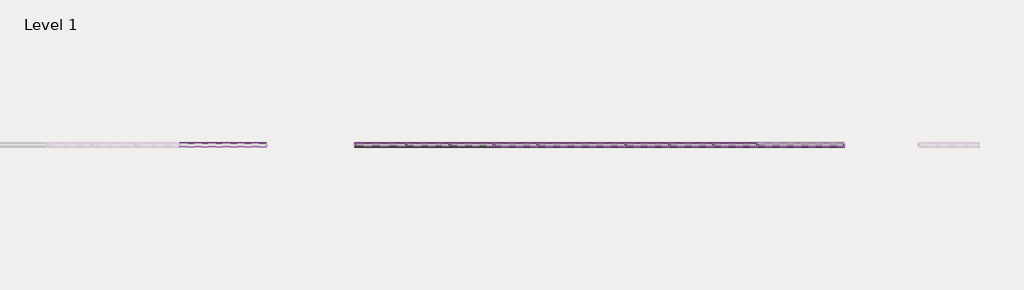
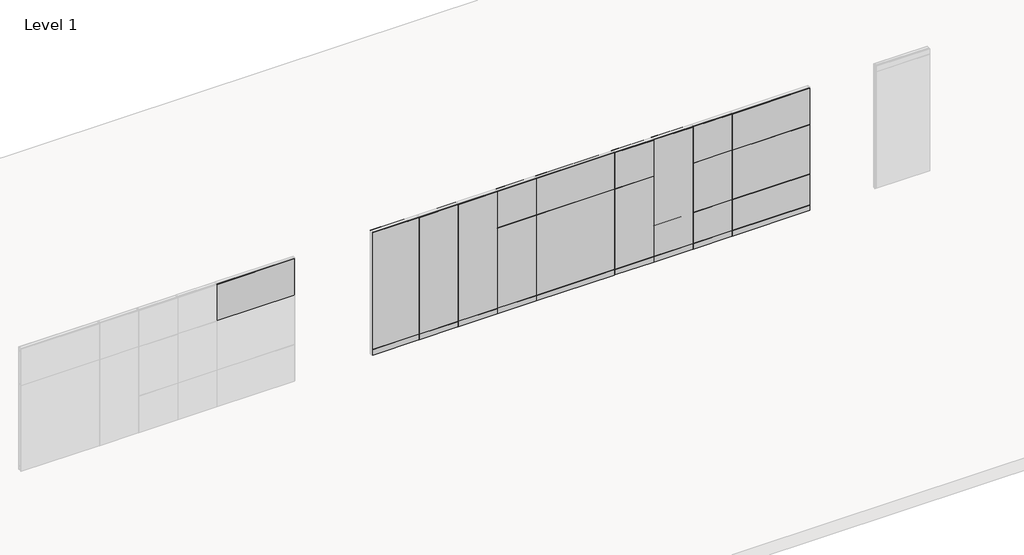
# One storey, part 7 of 22: 107 proxies.
"""IFC4 building model written with IfcOpenShell, lengths in millimetres."""

from ifc_helpers import new_model, si_unit, origin, place, context, project, spatial, transform, mapped, element, save
from components import fascia_teknion_ceiling_and_base_fpb1_658eb9e8, fascia_teknion_ceiling_and_base_fpb1_d3fc623d, fascia_teknion_ceiling_and_base_fpb1_6ffdd3c4, fascia_teknion_ceiling_and_base_fpb1_e3dcadc1, fascia_teknion_ceiling_and_base_fpb1_b7746e3f, fascia_teknion_ceiling_and_base_fpb1_fca0640a, fascia_teknion_ceiling_and_base_fpb1_086ac043, fascia_teknion_ceiling_and_base_fpb1_29265a3b, frame_teknion_horizontal_rail_46ee653b, frame_teknion_horizontal_rail_5dd37d62, frame_teknion_horizontal_rail_fbfe6c54, frame_teknion_horizontal_rail_cc39d483, full_f94a2816, full_178b5045, level_i_a4eb09b2, level_i_215115a4, level_ii_5838736d, level_ii_c8f04d20, level_ii_2f074b98, level_ii_82d1d981, level_iii_7086e34a, level_iii_17d9b208, monolithic_level_i_604a00d2, monolithic_level_i_117a5531, segmented_level_i_b619f2b0, segmented_level_i_812e5143, segmented_level_ii_95ed46a7, segmented_monolithic_level_i_a660c2bd, segmented_monolithic_level_i_ac18bccb, segmented_monolithic_level_ii_ef75357c, segmented_monolithic_level_ii_36634c45, smart_fascia_6a8e0afe, working_wall_monolithic_level_i_588f7e64, working_wall_monolithic_level_i_2cfe2bff, working_wall_monolithic_level_iii_599cdcd6

model = new_model("IFC4")

# Units and contexts
model_context = context("Model", 3, world=origin())
ifc_project = project(units=[si_unit("LENGTHUNIT", "METRE", prefix="MILLI")], contexts=[model_context])

# Site, building, storey
site = spatial("IfcSite", under=ifc_project)
building = spatial("IfcBuilding", under=site)
storey = spatial("IfcBuildingStorey", under=building, Name="Level 1", Elevation=0.0)

# Proxies
placement = place(None, origin())
fascia_teknion_ceiling_and_base_fpb1_shape = fascia_teknion_ceiling_and_base_fpb1_658eb9e8(model_context)
element("IfcBuildingElementProxy", 1, Name="Fascia-Teknion-Ceiling_and_Base : FPB1", ObjectType="Fascia-Teknion-Ceiling_and_Base : FPB1", at=placement, inside=storey, context=model_context, shape_type="MappedRepresentation", body=[
    mapped(fascia_teknion_ceiling_and_base_fpb1_shape, transform((-74729.1687444, 1781.3642105, 15.875), x_axis=(1.0, 0.0, 0.0), y_axis=(0.0, 1.0, 0.0), z_axis=(0.0, 0.0, 1.0))),
])
element("IfcBuildingElementProxy", 2, Name="Fascia-Teknion-Ceiling_and_Base : FPB1", ObjectType="Fascia-Teknion-Ceiling_and_Base : FPB1", at=placement, inside=storey, context=model_context, shape_type="MappedRepresentation", body=[
    mapped(fascia_teknion_ceiling_and_base_fpb1_shape, transform((-73814.7687444, 1781.3642105, 15.875), x_axis=(1.0, 0.0, 0.0), y_axis=(0.0, 1.0, 0.0), z_axis=(0.0, 0.0, 1.0))),
])
element("IfcBuildingElementProxy", 3, Name="Fascia-Teknion-Ceiling_and_Base : FPB1", ObjectType="Fascia-Teknion-Ceiling_and_Base : FPB1", at=placement, inside=storey, context=model_context, shape_type="MappedRepresentation", body=[
    mapped(fascia_teknion_ceiling_and_base_fpb1_shape, transform((-72900.3687444, 1781.3642105, 15.875), x_axis=(1.0, 0.0, 0.0), y_axis=(0.0, 1.0, 0.0), z_axis=(0.0, 0.0, 1.0))),
])
element("IfcBuildingElementProxy", 4, Name="Fascia-Teknion-Ceiling_and_Base : FPB1", ObjectType="Fascia-Teknion-Ceiling_and_Base : FPB1", at=placement, inside=storey, context=model_context, shape_type="MappedRepresentation", body=[
    mapped(fascia_teknion_ceiling_and_base_fpb1_shape, transform((-70157.1687444, 1781.3642105, 15.875), x_axis=(1.0, 0.0, 0.0), y_axis=(0.0, 1.0, 0.0), z_axis=(0.0, 0.0, 1.0))),
])
element("IfcBuildingElementProxy", 5, Name="Fascia-Teknion-Ceiling_and_Base : FPB1", ObjectType="Fascia-Teknion-Ceiling_and_Base : FPB1", at=placement, inside=storey, context=model_context, shape_type="MappedRepresentation", body=[
    mapped(fascia_teknion_ceiling_and_base_fpb1_shape, transform((-69242.7687444, 1781.3642105, 15.875), x_axis=(1.0, 0.0, 0.0), y_axis=(0.0, 1.0, 0.0), z_axis=(0.0, 0.0, 1.0))),
])
element("IfcBuildingElementProxy", 6, Name="Fascia-Teknion-Ceiling_and_Base : FPB1", ObjectType="Fascia-Teknion-Ceiling_and_Base : FPB1", at=placement, inside=storey, context=model_context, shape_type="MappedRepresentation", body=[
    mapped(fascia_teknion_ceiling_and_base_fpb1_shape, transform((-68328.3687444, 1781.3642105, 15.875), x_axis=(1.0, 0.0, 0.0), y_axis=(0.0, 1.0, 0.0), z_axis=(0.0, 0.0, 1.0))),
])
fascia_teknion_ceiling_and_base_fpb1_2_shape = fascia_teknion_ceiling_and_base_fpb1_d3fc623d(model_context)
element("IfcBuildingElementProxy", 7, Name="Fascia-Teknion-Ceiling_and_Base : FPB1", ObjectType="Fascia-Teknion-Ceiling_and_Base : FPB1", at=placement, inside=storey, context=model_context, shape_type="MappedRepresentation", body=[
    mapped(fascia_teknion_ceiling_and_base_fpb1_2_shape, transform((-75725.4738225, 1781.3642105, 15.875), x_axis=(1.0, 0.0, 0.0), y_axis=(0.0, 1.0, 0.0), z_axis=(0.0, 0.0, 1.0))),
])
fascia_teknion_ceiling_and_base_fpb1_3_shape = fascia_teknion_ceiling_and_base_fpb1_6ffdd3c4(model_context)
element("IfcBuildingElementProxy", 8, Name="Fascia-Teknion-Ceiling_and_Base : FPB1", ObjectType="Fascia-Teknion-Ceiling_and_Base : FPB1", at=placement, inside=storey, context=model_context, shape_type="MappedRepresentation", body=[
    mapped(fascia_teknion_ceiling_and_base_fpb1_3_shape, transform((-71528.7687444, 1781.3642105, 15.875), x_axis=(1.0, 0.0, 0.0), y_axis=(0.0, 1.0, 0.0), z_axis=(0.0, 0.0, 1.0))),
])
fascia_teknion_ceiling_and_base_fpb1_4_shape = fascia_teknion_ceiling_and_base_fpb1_e3dcadc1(model_context)
element("IfcBuildingElementProxy", 9, Name="Fascia-Teknion-Ceiling_and_Base : FPB1", ObjectType="Fascia-Teknion-Ceiling_and_Base : FPB1", at=placement, inside=storey, context=model_context, shape_type="MappedRepresentation", body=[
    mapped(fascia_teknion_ceiling_and_base_fpb1_4_shape, transform((-66963.7636663, 1781.3642105, 15.875), x_axis=(1.0, 0.0, 0.0), y_axis=(0.0, 1.0, 0.0), z_axis=(0.0, 0.0, 1.0))),
])
fascia_teknion_ceiling_and_base_fpb1_5_shape = fascia_teknion_ceiling_and_base_fpb1_b7746e3f(model_context)
element("IfcBuildingElementProxy", 10, Name="Fascia-Teknion-Ceiling_and_Base : FPB1", ObjectType="Fascia-Teknion-Ceiling_and_Base : FPB1", at=placement, inside=storey, context=model_context, shape_type="MappedRepresentation", body=[
    mapped(fascia_teknion_ceiling_and_base_fpb1_5_shape, transform((-66963.7636663, 1843.3402105, 15.875), x_axis=(1.0, 0.0, 0.0), y_axis=(0.0, 1.0, 0.0), z_axis=(0.0, 0.0, 1.0))),
])
fascia_teknion_ceiling_and_base_fpb1_6_shape = fascia_teknion_ceiling_and_base_fpb1_fca0640a(model_context)
element("IfcBuildingElementProxy", 11, Name="Fascia-Teknion-Ceiling_and_Base : FPB1", ObjectType="Fascia-Teknion-Ceiling_and_Base : FPB1", at=placement, inside=storey, context=model_context, shape_type="MappedRepresentation", body=[
    mapped(fascia_teknion_ceiling_and_base_fpb1_6_shape, transform((-73814.7687444, 1843.3402105, 15.875), x_axis=(1.0, 0.0, 0.0), y_axis=(0.0, 1.0, 0.0), z_axis=(0.0, 0.0, 1.0))),
])
element("IfcBuildingElementProxy", 12, Name="Fascia-Teknion-Ceiling_and_Base : FPB1", ObjectType="Fascia-Teknion-Ceiling_and_Base : FPB1", at=placement, inside=storey, context=model_context, shape_type="MappedRepresentation", body=[
    mapped(fascia_teknion_ceiling_and_base_fpb1_6_shape, transform((-72900.3687444, 1843.3402105, 15.875), x_axis=(1.0, 0.0, 0.0), y_axis=(0.0, 1.0, 0.0), z_axis=(0.0, 0.0, 1.0))),
])
element("IfcBuildingElementProxy", 13, Name="Fascia-Teknion-Ceiling_and_Base : FPB1", ObjectType="Fascia-Teknion-Ceiling_and_Base : FPB1", at=placement, inside=storey, context=model_context, shape_type="MappedRepresentation", body=[
    mapped(fascia_teknion_ceiling_and_base_fpb1_6_shape, transform((-70157.1687444, 1843.3402105, 15.875), x_axis=(1.0, 0.0, 0.0), y_axis=(0.0, 1.0, 0.0), z_axis=(0.0, 0.0, 1.0))),
])
element("IfcBuildingElementProxy", 14, Name="Fascia-Teknion-Ceiling_and_Base : FPB1", ObjectType="Fascia-Teknion-Ceiling_and_Base : FPB1", at=placement, inside=storey, context=model_context, shape_type="MappedRepresentation", body=[
    mapped(fascia_teknion_ceiling_and_base_fpb1_6_shape, transform((-69242.7687444, 1843.3402105, 15.875), x_axis=(1.0, 0.0, 0.0), y_axis=(0.0, 1.0, 0.0), z_axis=(0.0, 0.0, 1.0))),
])
element("IfcBuildingElementProxy", 15, Name="Fascia-Teknion-Ceiling_and_Base : FPB1", ObjectType="Fascia-Teknion-Ceiling_and_Base : FPB1", at=placement, inside=storey, context=model_context, shape_type="MappedRepresentation", body=[
    mapped(fascia_teknion_ceiling_and_base_fpb1_6_shape, transform((-74729.1687444, 1843.3402105, 15.875), x_axis=(1.0, 0.0, 0.0), y_axis=(0.0, 1.0, 0.0), z_axis=(0.0, 0.0, 1.0))),
])
element("IfcBuildingElementProxy", 16, Name="Fascia-Teknion-Ceiling_and_Base : FPB1", ObjectType="Fascia-Teknion-Ceiling_and_Base : FPB1", at=placement, inside=storey, context=model_context, shape_type="MappedRepresentation", body=[
    mapped(fascia_teknion_ceiling_and_base_fpb1_6_shape, transform((-68328.3687444, 1843.3402105, 15.875), x_axis=(1.0, 0.0, 0.0), y_axis=(0.0, 1.0, 0.0), z_axis=(0.0, 0.0, 1.0))),
])
fascia_teknion_ceiling_and_base_fpb1_7_shape = fascia_teknion_ceiling_and_base_fpb1_086ac043(model_context)
element("IfcBuildingElementProxy", 17, Name="Fascia-Teknion-Ceiling_and_Base : FPB1", ObjectType="Fascia-Teknion-Ceiling_and_Base : FPB1", at=placement, inside=storey, context=model_context, shape_type="MappedRepresentation", body=[
    mapped(fascia_teknion_ceiling_and_base_fpb1_7_shape, transform((-71528.7687444, 1843.3402105, 15.875), x_axis=(1.0, 0.0, 0.0), y_axis=(0.0, 1.0, 0.0), z_axis=(0.0, 0.0, 1.0))),
])
fascia_teknion_ceiling_and_base_fpb1_8_shape = fascia_teknion_ceiling_and_base_fpb1_29265a3b(model_context)
element("IfcBuildingElementProxy", 18, Name="Fascia-Teknion-Ceiling_and_Base : FPB1", ObjectType="Fascia-Teknion-Ceiling_and_Base : FPB1", at=placement, inside=storey, context=model_context, shape_type="MappedRepresentation", body=[
    mapped(fascia_teknion_ceiling_and_base_fpb1_8_shape, transform((-75725.4738225, 1843.3402105, 15.875), x_axis=(1.0, 0.0, 0.0), y_axis=(0.0, 1.0, 0.0), z_axis=(0.0, 0.0, 1.0))),
])
element("IfcBuildingElementProxy", 19, Name="Fascia-Teknion-Ceiling_and_Base : FPC", ObjectType="Fascia-Teknion-Ceiling_and_Base : FPC", at=placement, inside=storey, context=model_context, shape_type="MappedRepresentation", body=[
    mapped(fascia_teknion_ceiling_and_base_fpb1_5_shape, transform((-66963.7636663, 1843.3402105, 2950.845), x_axis=(1.0, 0.0, 0.0), y_axis=(0.0, 1.0, 0.0), z_axis=(0.0, 0.0, 1.0))),
])
element("IfcBuildingElementProxy", 20, Name="Fascia-Teknion-Ceiling_and_Base : FPC", ObjectType="Fascia-Teknion-Ceiling_and_Base : FPC", at=placement, inside=storey, context=model_context, shape_type="MappedRepresentation", body=[
    mapped(fascia_teknion_ceiling_and_base_fpb1_6_shape, transform((-73814.7687444, 1843.3402105, 2950.845), x_axis=(1.0, 0.0, 0.0), y_axis=(0.0, 1.0, 0.0), z_axis=(0.0, 0.0, 1.0))),
])
element("IfcBuildingElementProxy", 21, Name="Fascia-Teknion-Ceiling_and_Base : FPC", ObjectType="Fascia-Teknion-Ceiling_and_Base : FPC", at=placement, inside=storey, context=model_context, shape_type="MappedRepresentation", body=[
    mapped(fascia_teknion_ceiling_and_base_fpb1_6_shape, transform((-72900.3687444, 1843.3402105, 2950.845), x_axis=(1.0, 0.0, 0.0), y_axis=(0.0, 1.0, 0.0), z_axis=(0.0, 0.0, 1.0))),
])
element("IfcBuildingElementProxy", 22, Name="Fascia-Teknion-Ceiling_and_Base : FPC", ObjectType="Fascia-Teknion-Ceiling_and_Base : FPC", at=placement, inside=storey, context=model_context, shape_type="MappedRepresentation", body=[
    mapped(fascia_teknion_ceiling_and_base_fpb1_6_shape, transform((-70157.1687444, 1843.3402105, 2950.845), x_axis=(1.0, 0.0, 0.0), y_axis=(0.0, 1.0, 0.0), z_axis=(0.0, 0.0, 1.0))),
])
element("IfcBuildingElementProxy", 23, Name="Fascia-Teknion-Ceiling_and_Base : FPC", ObjectType="Fascia-Teknion-Ceiling_and_Base : FPC", at=placement, inside=storey, context=model_context, shape_type="MappedRepresentation", body=[
    mapped(fascia_teknion_ceiling_and_base_fpb1_6_shape, transform((-69242.7687444, 1843.3402105, 2950.845), x_axis=(1.0, 0.0, 0.0), y_axis=(0.0, 1.0, 0.0), z_axis=(0.0, 0.0, 1.0))),
])
element("IfcBuildingElementProxy", 24, Name="Fascia-Teknion-Ceiling_and_Base : FPC", ObjectType="Fascia-Teknion-Ceiling_and_Base : FPC", at=placement, inside=storey, context=model_context, shape_type="MappedRepresentation", body=[
    mapped(fascia_teknion_ceiling_and_base_fpb1_6_shape, transform((-74729.1687444, 1843.3402105, 2950.845), x_axis=(1.0, 0.0, 0.0), y_axis=(0.0, 1.0, 0.0), z_axis=(0.0, 0.0, 1.0))),
])
element("IfcBuildingElementProxy", 25, Name="Fascia-Teknion-Ceiling_and_Base : FPC", ObjectType="Fascia-Teknion-Ceiling_and_Base : FPC", at=placement, inside=storey, context=model_context, shape_type="MappedRepresentation", body=[
    mapped(fascia_teknion_ceiling_and_base_fpb1_6_shape, transform((-68328.3687444, 1843.3402105, 2950.845), x_axis=(1.0, 0.0, 0.0), y_axis=(0.0, 1.0, 0.0), z_axis=(0.0, 0.0, 1.0))),
])
element("IfcBuildingElementProxy", 26, Name="Fascia-Teknion-Ceiling_and_Base : FPC", ObjectType="Fascia-Teknion-Ceiling_and_Base : FPC", at=placement, inside=storey, context=model_context, shape_type="MappedRepresentation", body=[
    mapped(fascia_teknion_ceiling_and_base_fpb1_7_shape, transform((-71528.7687444, 1843.3402105, 2950.845), x_axis=(1.0, 0.0, 0.0), y_axis=(0.0, 1.0, 0.0), z_axis=(0.0, 0.0, 1.0))),
])
element("IfcBuildingElementProxy", 27, Name="Fascia-Teknion-Ceiling_and_Base : FPC", ObjectType="Fascia-Teknion-Ceiling_and_Base : FPC", at=placement, inside=storey, context=model_context, shape_type="MappedRepresentation", body=[
    mapped(fascia_teknion_ceiling_and_base_fpb1_8_shape, transform((-75725.4738225, 1843.3402105, 2950.845), x_axis=(1.0, 0.0, 0.0), y_axis=(0.0, 1.0, 0.0), z_axis=(0.0, 0.0, 1.0))),
])
frame_teknion_horizontal_rail_shape = frame_teknion_horizontal_rail_46ee653b(model_context)
element("IfcBuildingElementProxy", 28, Name="Frame-Teknion-Horizontal_Rail : FPKK", ObjectType="Frame-Teknion-Horizontal_Rail : FPKK", at=placement, inside=storey, context=model_context, shape_type="MappedRepresentation", body=[
    mapped(frame_teknion_horizontal_rail_shape, transform((-74729.1687444, 1812.3522105, 2949.1305), x_axis=(1.0, 0.0, 0.0), y_axis=(0.0, 1.0, 0.0), z_axis=(0.0, 0.0, 1.0))),
])
element("IfcBuildingElementProxy", 29, Name="Frame-Teknion-Horizontal_Rail : FPKK", ObjectType="Frame-Teknion-Horizontal_Rail : FPKK", at=placement, inside=storey, context=model_context, shape_type="MappedRepresentation", body=[
    mapped(frame_teknion_horizontal_rail_shape, transform((-74729.1687444, 1812.3522105, 151.257), x_axis=(1.0, 0.0, 0.0), y_axis=(0.0, 1.0, 0.0), z_axis=(0.0, 0.0, 1.0))),
])
element("IfcBuildingElementProxy", 30, Name="Frame-Teknion-Horizontal_Rail : FPKK", ObjectType="Frame-Teknion-Horizontal_Rail : FPKK", at=placement, inside=storey, context=model_context, shape_type="MappedRepresentation", body=[
    mapped(frame_teknion_horizontal_rail_shape, transform((-73814.7687444, 1812.3522105, 2949.1305), x_axis=(1.0, 0.0, 0.0), y_axis=(0.0, 1.0, 0.0), z_axis=(0.0, 0.0, 1.0))),
])
element("IfcBuildingElementProxy", 31, Name="Frame-Teknion-Horizontal_Rail : FPKK", ObjectType="Frame-Teknion-Horizontal_Rail : FPKK", at=placement, inside=storey, context=model_context, shape_type="MappedRepresentation", body=[
    mapped(frame_teknion_horizontal_rail_shape, transform((-73814.7687444, 1812.3522105, 151.257), x_axis=(1.0, 0.0, 0.0), y_axis=(0.0, 1.0, 0.0), z_axis=(0.0, 0.0, 1.0))),
])
element("IfcBuildingElementProxy", 32, Name="Frame-Teknion-Horizontal_Rail : FPKK", ObjectType="Frame-Teknion-Horizontal_Rail : FPKK", at=placement, inside=storey, context=model_context, shape_type="MappedRepresentation", body=[
    mapped(frame_teknion_horizontal_rail_shape, transform((-72900.3687444, 1812.3522105, 2949.1305), x_axis=(1.0, 0.0, 0.0), y_axis=(0.0, 1.0, 0.0), z_axis=(0.0, 0.0, 1.0))),
])
element("IfcBuildingElementProxy", 33, Name="Frame-Teknion-Horizontal_Rail : FPKK", ObjectType="Frame-Teknion-Horizontal_Rail : FPKK", at=placement, inside=storey, context=model_context, shape_type="MappedRepresentation", body=[
    mapped(frame_teknion_horizontal_rail_shape, transform((-72900.3687444, 1812.3522105, 151.257), x_axis=(1.0, 0.0, 0.0), y_axis=(0.0, 1.0, 0.0), z_axis=(0.0, 0.0, 1.0))),
])
element("IfcBuildingElementProxy", 34, Name="Frame-Teknion-Horizontal_Rail : FPKK", ObjectType="Frame-Teknion-Horizontal_Rail : FPKK", at=placement, inside=storey, context=model_context, shape_type="MappedRepresentation", body=[
    mapped(frame_teknion_horizontal_rail_shape, transform((-70157.1687444, 1812.3522105, 2949.1305), x_axis=(1.0, 0.0, 0.0), y_axis=(0.0, 1.0, 0.0), z_axis=(0.0, 0.0, 1.0))),
])
element("IfcBuildingElementProxy", 35, Name="Frame-Teknion-Horizontal_Rail : FPKK", ObjectType="Frame-Teknion-Horizontal_Rail : FPKK", at=placement, inside=storey, context=model_context, shape_type="MappedRepresentation", body=[
    mapped(frame_teknion_horizontal_rail_shape, transform((-70157.1687444, 1812.3522105, 151.257), x_axis=(1.0, 0.0, 0.0), y_axis=(0.0, 1.0, 0.0), z_axis=(0.0, 0.0, 1.0))),
])
element("IfcBuildingElementProxy", 36, Name="Frame-Teknion-Horizontal_Rail : FPKK", ObjectType="Frame-Teknion-Horizontal_Rail : FPKK", at=placement, inside=storey, context=model_context, shape_type="MappedRepresentation", body=[
    mapped(frame_teknion_horizontal_rail_shape, transform((-69242.7687444, 1812.3522105, 2949.1305), x_axis=(1.0, 0.0, 0.0), y_axis=(0.0, 1.0, 0.0), z_axis=(0.0, 0.0, 1.0))),
])
element("IfcBuildingElementProxy", 37, Name="Frame-Teknion-Horizontal_Rail : FPKK", ObjectType="Frame-Teknion-Horizontal_Rail : FPKK", at=placement, inside=storey, context=model_context, shape_type="MappedRepresentation", body=[
    mapped(frame_teknion_horizontal_rail_shape, transform((-69242.7687444, 1812.3522105, 151.257), x_axis=(1.0, 0.0, 0.0), y_axis=(0.0, 1.0, 0.0), z_axis=(0.0, 0.0, 1.0))),
])
element("IfcBuildingElementProxy", 38, Name="Frame-Teknion-Horizontal_Rail : FPKK", ObjectType="Frame-Teknion-Horizontal_Rail : FPKK", at=placement, inside=storey, context=model_context, shape_type="MappedRepresentation", body=[
    mapped(frame_teknion_horizontal_rail_shape, transform((-68328.3687444, 1812.3522105, 2949.1305), x_axis=(1.0, 0.0, 0.0), y_axis=(0.0, 1.0, 0.0), z_axis=(0.0, 0.0, 1.0))),
])
element("IfcBuildingElementProxy", 39, Name="Frame-Teknion-Horizontal_Rail : FPKK", ObjectType="Frame-Teknion-Horizontal_Rail : FPKK", at=placement, inside=storey, context=model_context, shape_type="MappedRepresentation", body=[
    mapped(frame_teknion_horizontal_rail_shape, transform((-68328.3687444, 1812.3522105, 151.257), x_axis=(1.0, 0.0, 0.0), y_axis=(0.0, 1.0, 0.0), z_axis=(0.0, 0.0, 1.0))),
])
element("IfcBuildingElementProxy", 40, Name="Frame-Teknion-Horizontal_Rail : FPKK", ObjectType="Frame-Teknion-Horizontal_Rail : FPKK", at=placement, inside=storey, context=model_context, shape_type="MappedRepresentation", body=[
    mapped(frame_teknion_horizontal_rail_shape, transform((-74729.1687444, 1812.3522105, 2136.775), x_axis=(1.0, 0.0, 0.0), y_axis=(0.0, 1.0, 0.0), z_axis=(0.0, 0.0, 1.0))),
])
element("IfcBuildingElementProxy", 41, Name="Frame-Teknion-Horizontal_Rail : FPKK", ObjectType="Frame-Teknion-Horizontal_Rail : FPKK", at=placement, inside=storey, context=model_context, shape_type="MappedRepresentation", body=[
    mapped(frame_teknion_horizontal_rail_shape, transform((-73814.7687444, 1812.3522105, 917.575), x_axis=(1.0, 0.0, 0.0), y_axis=(0.0, 1.0, 0.0), z_axis=(0.0, 0.0, 1.0))),
])
element("IfcBuildingElementProxy", 42, Name="Frame-Teknion-Horizontal_Rail : FPKK", ObjectType="Frame-Teknion-Horizontal_Rail : FPKK", at=placement, inside=storey, context=model_context, shape_type="MappedRepresentation", body=[
    mapped(frame_teknion_horizontal_rail_shape, transform((-73814.7687444, 1812.3522105, 2136.775), x_axis=(1.0, 0.0, 0.0), y_axis=(0.0, 1.0, 0.0), z_axis=(0.0, 0.0, 1.0))),
])
element("IfcBuildingElementProxy", 43, Name="Frame-Teknion-Horizontal_Rail : FPKK", ObjectType="Frame-Teknion-Horizontal_Rail : FPKK", at=placement, inside=storey, context=model_context, shape_type="MappedRepresentation", body=[
    mapped(frame_teknion_horizontal_rail_shape, transform((-72900.3687444, 1812.3522105, 2136.775), x_axis=(1.0, 0.0, 0.0), y_axis=(0.0, 1.0, 0.0), z_axis=(0.0, 0.0, 1.0))),
])
element("IfcBuildingElementProxy", 44, Name="Frame-Teknion-Horizontal_Rail : FPKK", ObjectType="Frame-Teknion-Horizontal_Rail : FPKK", at=placement, inside=storey, context=model_context, shape_type="MappedRepresentation", body=[
    mapped(frame_teknion_horizontal_rail_shape, transform((-70157.1687444, 1812.3522105, 917.575), x_axis=(1.0, 0.0, 0.0), y_axis=(0.0, 1.0, 0.0), z_axis=(0.0, 0.0, 1.0))),
])
element("IfcBuildingElementProxy", 45, Name="Frame-Teknion-Horizontal_Rail : FPKK", ObjectType="Frame-Teknion-Horizontal_Rail : FPKK", at=placement, inside=storey, context=model_context, shape_type="MappedRepresentation", body=[
    mapped(frame_teknion_horizontal_rail_shape, transform((-70157.1687444, 1812.3522105, 2136.775), x_axis=(1.0, 0.0, 0.0), y_axis=(0.0, 1.0, 0.0), z_axis=(0.0, 0.0, 1.0))),
])
element("IfcBuildingElementProxy", 46, Name="Frame-Teknion-Horizontal_Rail : FPKK", ObjectType="Frame-Teknion-Horizontal_Rail : FPKK", at=placement, inside=storey, context=model_context, shape_type="MappedRepresentation", body=[
    mapped(frame_teknion_horizontal_rail_shape, transform((-69242.7687444, 1812.3522105, 917.575), x_axis=(1.0, 0.0, 0.0), y_axis=(0.0, 1.0, 0.0), z_axis=(0.0, 0.0, 1.0))),
])
element("IfcBuildingElementProxy", 47, Name="Frame-Teknion-Horizontal_Rail : FPKK", ObjectType="Frame-Teknion-Horizontal_Rail : FPKK", at=placement, inside=storey, context=model_context, shape_type="MappedRepresentation", body=[
    mapped(frame_teknion_horizontal_rail_shape, transform((-69242.7687444, 1812.3522105, 2136.775), x_axis=(1.0, 0.0, 0.0), y_axis=(0.0, 1.0, 0.0), z_axis=(0.0, 0.0, 1.0))),
])
element("IfcBuildingElementProxy", 48, Name="Frame-Teknion-Horizontal_Rail : FPKK", ObjectType="Frame-Teknion-Horizontal_Rail : FPKK", at=placement, inside=storey, context=model_context, shape_type="MappedRepresentation", body=[
    mapped(frame_teknion_horizontal_rail_shape, transform((-68328.3687444, 1812.3522105, 917.575), x_axis=(1.0, 0.0, 0.0), y_axis=(0.0, 1.0, 0.0), z_axis=(0.0, 0.0, 1.0))),
])
element("IfcBuildingElementProxy", 49, Name="Frame-Teknion-Horizontal_Rail : FPKK", ObjectType="Frame-Teknion-Horizontal_Rail : FPKK", at=placement, inside=storey, context=model_context, shape_type="MappedRepresentation", body=[
    mapped(frame_teknion_horizontal_rail_shape, transform((-68328.3687444, 1812.3522105, 2136.775), x_axis=(1.0, 0.0, 0.0), y_axis=(0.0, 1.0, 0.0), z_axis=(0.0, 0.0, 1.0))),
])
element("IfcBuildingElementProxy", 50, Name="Frame-Teknion-Horizontal_Rail : FPKK", ObjectType="Frame-Teknion-Horizontal_Rail : FPKK", at=placement, inside=storey, context=model_context, shape_type="MappedRepresentation", body=[
    mapped(frame_teknion_horizontal_rail_shape, transform((-74729.1687444, 1812.3522105, 100.457), x_axis=(1.0, 0.0, 0.0), y_axis=(0.0, 1.0, 0.0), z_axis=(0.0, 0.0, 1.0))),
])
element("IfcBuildingElementProxy", 51, Name="Frame-Teknion-Horizontal_Rail : FPKK", ObjectType="Frame-Teknion-Horizontal_Rail : FPKK", at=placement, inside=storey, context=model_context, shape_type="MappedRepresentation", body=[
    mapped(frame_teknion_horizontal_rail_shape, transform((-73814.7687444, 1812.3522105, 100.457), x_axis=(1.0, 0.0, 0.0), y_axis=(0.0, 1.0, 0.0), z_axis=(0.0, 0.0, 1.0))),
])
element("IfcBuildingElementProxy", 52, Name="Frame-Teknion-Horizontal_Rail : FPKK", ObjectType="Frame-Teknion-Horizontal_Rail : FPKK", at=placement, inside=storey, context=model_context, shape_type="MappedRepresentation", body=[
    mapped(frame_teknion_horizontal_rail_shape, transform((-72900.3687444, 1812.3522105, 100.457), x_axis=(1.0, 0.0, 0.0), y_axis=(0.0, 1.0, 0.0), z_axis=(0.0, 0.0, 1.0))),
])
element("IfcBuildingElementProxy", 53, Name="Frame-Teknion-Horizontal_Rail : FPKK", ObjectType="Frame-Teknion-Horizontal_Rail : FPKK", at=placement, inside=storey, context=model_context, shape_type="MappedRepresentation", body=[
    mapped(frame_teknion_horizontal_rail_shape, transform((-70157.1687444, 1812.3522105, 100.457), x_axis=(1.0, 0.0, 0.0), y_axis=(0.0, 1.0, 0.0), z_axis=(0.0, 0.0, 1.0))),
])
element("IfcBuildingElementProxy", 54, Name="Frame-Teknion-Horizontal_Rail : FPKK", ObjectType="Frame-Teknion-Horizontal_Rail : FPKK", at=placement, inside=storey, context=model_context, shape_type="MappedRepresentation", body=[
    mapped(frame_teknion_horizontal_rail_shape, transform((-69242.7687444, 1812.3522105, 100.457), x_axis=(1.0, 0.0, 0.0), y_axis=(0.0, 1.0, 0.0), z_axis=(0.0, 0.0, 1.0))),
])
element("IfcBuildingElementProxy", 55, Name="Frame-Teknion-Horizontal_Rail : FPKK", ObjectType="Frame-Teknion-Horizontal_Rail : FPKK", at=placement, inside=storey, context=model_context, shape_type="MappedRepresentation", body=[
    mapped(frame_teknion_horizontal_rail_shape, transform((-68328.3687444, 1812.3522105, 100.457), x_axis=(1.0, 0.0, 0.0), y_axis=(0.0, 1.0, 0.0), z_axis=(0.0, 0.0, 1.0))),
])
frame_teknion_horizontal_rail_2_shape = frame_teknion_horizontal_rail_5dd37d62(model_context)
element("IfcBuildingElementProxy", 56, Name="Frame-Teknion-Horizontal_Rail : FPKK", ObjectType="Frame-Teknion-Horizontal_Rail : FPKK", at=placement, inside=storey, context=model_context, shape_type="MappedRepresentation", body=[
    mapped(frame_teknion_horizontal_rail_2_shape, transform((-71528.7687444, 1812.3522105, 2949.1305), x_axis=(1.0, 0.0, 0.0), y_axis=(0.0, 1.0, 0.0), z_axis=(0.0, 0.0, 1.0))),
])
element("IfcBuildingElementProxy", 57, Name="Frame-Teknion-Horizontal_Rail : FPKK", ObjectType="Frame-Teknion-Horizontal_Rail : FPKK", at=placement, inside=storey, context=model_context, shape_type="MappedRepresentation", body=[
    mapped(frame_teknion_horizontal_rail_2_shape, transform((-71528.7687444, 1812.3522105, 151.257), x_axis=(1.0, 0.0, 0.0), y_axis=(0.0, 1.0, 0.0), z_axis=(0.0, 0.0, 1.0))),
])
element("IfcBuildingElementProxy", 58, Name="Frame-Teknion-Horizontal_Rail : FPKK", ObjectType="Frame-Teknion-Horizontal_Rail : FPKK", at=placement, inside=storey, context=model_context, shape_type="MappedRepresentation", body=[
    mapped(frame_teknion_horizontal_rail_2_shape, transform((-71528.7687444, 1812.3522105, 2136.775), x_axis=(1.0, 0.0, 0.0), y_axis=(0.0, 1.0, 0.0), z_axis=(0.0, 0.0, 1.0))),
])
element("IfcBuildingElementProxy", 59, Name="Frame-Teknion-Horizontal_Rail : FPKK", ObjectType="Frame-Teknion-Horizontal_Rail : FPKK", at=placement, inside=storey, context=model_context, shape_type="MappedRepresentation", body=[
    mapped(frame_teknion_horizontal_rail_2_shape, transform((-71528.7687444, 1812.3522105, 100.457), x_axis=(1.0, 0.0, 0.0), y_axis=(0.0, 1.0, 0.0), z_axis=(0.0, 0.0, 1.0))),
])
frame_teknion_horizontal_rail_3_shape = frame_teknion_horizontal_rail_fbfe6c54(model_context)
element("IfcBuildingElementProxy", 60, Name="Frame-Teknion-Horizontal_Rail : FPKK", ObjectType="Frame-Teknion-Horizontal_Rail : FPKK", at=placement, inside=storey, context=model_context, shape_type="MappedRepresentation", body=[
    mapped(frame_teknion_horizontal_rail_3_shape, transform((-66963.7636663, 1812.3522105, 2949.1305), x_axis=(1.0, 0.0, 0.0), y_axis=(0.0, 1.0, 0.0), z_axis=(0.0, 0.0, 1.0))),
])
element("IfcBuildingElementProxy", 61, Name="Frame-Teknion-Horizontal_Rail : FPKK", ObjectType="Frame-Teknion-Horizontal_Rail : FPKK", at=placement, inside=storey, context=model_context, shape_type="MappedRepresentation", body=[
    mapped(frame_teknion_horizontal_rail_3_shape, transform((-66963.7636663, 1812.3522105, 151.257), x_axis=(1.0, 0.0, 0.0), y_axis=(0.0, 1.0, 0.0), z_axis=(0.0, 0.0, 1.0))),
])
element("IfcBuildingElementProxy", 62, Name="Frame-Teknion-Horizontal_Rail : FPKK", ObjectType="Frame-Teknion-Horizontal_Rail : FPKK", at=placement, inside=storey, context=model_context, shape_type="MappedRepresentation", body=[
    mapped(frame_teknion_horizontal_rail_3_shape, transform((-66963.7636663, 1812.3522105, 917.575), x_axis=(1.0, 0.0, 0.0), y_axis=(0.0, 1.0, 0.0), z_axis=(0.0, 0.0, 1.0))),
])
element("IfcBuildingElementProxy", 63, Name="Frame-Teknion-Horizontal_Rail : FPKK", ObjectType="Frame-Teknion-Horizontal_Rail : FPKK", at=placement, inside=storey, context=model_context, shape_type="MappedRepresentation", body=[
    mapped(frame_teknion_horizontal_rail_3_shape, transform((-66963.7636663, 1812.3522105, 2136.775), x_axis=(1.0, 0.0, 0.0), y_axis=(0.0, 1.0, 0.0), z_axis=(0.0, 0.0, 1.0))),
])
element("IfcBuildingElementProxy", 64, Name="Frame-Teknion-Horizontal_Rail : FPKK", ObjectType="Frame-Teknion-Horizontal_Rail : FPKK", at=placement, inside=storey, context=model_context, shape_type="MappedRepresentation", body=[
    mapped(frame_teknion_horizontal_rail_3_shape, transform((-66963.7636663, 1812.3522105, 100.457), x_axis=(1.0, 0.0, 0.0), y_axis=(0.0, 1.0, 0.0), z_axis=(0.0, 0.0, 1.0))),
])
frame_teknion_horizontal_rail_4_shape = frame_teknion_horizontal_rail_cc39d483(model_context)
element("IfcBuildingElementProxy", 65, Name="Frame-Teknion-Horizontal_Rail : FPKK", ObjectType="Frame-Teknion-Horizontal_Rail : FPKK", at=placement, inside=storey, context=model_context, shape_type="MappedRepresentation", body=[
    mapped(frame_teknion_horizontal_rail_4_shape, transform((-75725.4738225, 1812.3522105, 2949.1305), x_axis=(1.0, 0.0, 0.0), y_axis=(0.0, 1.0, 0.0), z_axis=(0.0, 0.0, 1.0))),
])
element("IfcBuildingElementProxy", 66, Name="Frame-Teknion-Horizontal_Rail : FPKK", ObjectType="Frame-Teknion-Horizontal_Rail : FPKK", at=placement, inside=storey, context=model_context, shape_type="MappedRepresentation", body=[
    mapped(frame_teknion_horizontal_rail_4_shape, transform((-75725.4738225, 1812.3522105, 151.257), x_axis=(1.0, 0.0, 0.0), y_axis=(0.0, 1.0, 0.0), z_axis=(0.0, 0.0, 1.0))),
])
element("IfcBuildingElementProxy", 67, Name="Frame-Teknion-Horizontal_Rail : FPKK", ObjectType="Frame-Teknion-Horizontal_Rail : FPKK", at=placement, inside=storey, context=model_context, shape_type="MappedRepresentation", body=[
    mapped(frame_teknion_horizontal_rail_4_shape, transform((-75725.4738225, 1812.3522105, 100.457), x_axis=(1.0, 0.0, 0.0), y_axis=(0.0, 1.0, 0.0), z_axis=(0.0, 0.0, 1.0))),
])
full_shape = full_f94a2816(model_context)
element("IfcBuildingElementProxy", 68, Name="Panel-Fascia-Teknion-Altos-Standard : Full", ObjectType="Panel-Fascia-Teknion-Altos-Standard : Full", at=placement, inside=storey, context=model_context, shape_type="MappedRepresentation", body=[
    mapped(full_shape, transform((-72900.3687444, 1852.8652105, 100.457), x_axis=(1.0, 0.0, 0.0), y_axis=(0.0, 1.0, 0.0), z_axis=(0.0, 0.0, 1.0))),
])
element("IfcBuildingElementProxy", 69, Name="Panel-Fascia-Teknion-Altos-Standard : Full", ObjectType="Panel-Fascia-Teknion-Altos-Standard : Full", at=placement, inside=storey, context=model_context, shape_type="MappedRepresentation", body=[
    mapped(full_shape, transform((-69242.7687444, 1852.8652105, 100.457), x_axis=(1.0, 0.0, 0.0), y_axis=(0.0, 1.0, 0.0), z_axis=(0.0, 0.0, 1.0))),
])
full_2_shape = full_178b5045(model_context)
element("IfcBuildingElementProxy", 70, Name="Panel-Fascia-Teknion-Altos-Standard : Full", ObjectType="Panel-Fascia-Teknion-Altos-Standard : Full", at=placement, inside=storey, context=model_context, shape_type="MappedRepresentation", body=[
    mapped(full_2_shape, transform((-75725.4738225, 1852.8652105, 100.457), x_axis=(1.0, 0.0, 0.0), y_axis=(0.0, 1.0, 0.0), z_axis=(0.0, 0.0, 1.0))),
])
level_i_shape = level_i_a4eb09b2(model_context)
element("IfcBuildingElementProxy", 71, Name="Panel-Fascia-Teknion-Altos-Standard : Level I", ObjectType="Panel-Fascia-Teknion-Altos-Standard : Level I", at=placement, inside=storey, context=model_context, shape_type="MappedRepresentation", body=[
    mapped(level_i_shape, transform((-66963.7636663, 1852.8652105, 100.457), x_axis=(1.0, 0.0, 0.0), y_axis=(0.0, 1.0, 0.0), z_axis=(0.0, 0.0, 1.0))),
])
element("IfcBuildingElementProxy", 72, Name="Panel-Fascia-Teknion-Altos-Standard : Level I", ObjectType="Panel-Fascia-Teknion-Altos-Standard : Level I", at=placement, inside=storey, context=model_context, shape_type="MappedRepresentation", body=[
    mapped(level_i_shape, transform((-79003.3636663, 1852.8652105, 100.457), x_axis=(1.0, 0.0, 0.0), y_axis=(0.0, 1.0, 0.0), z_axis=(0.0, 0.0, 1.0))),
])
level_i_2_shape = level_i_215115a4(model_context)
element("IfcBuildingElementProxy", 73, Name="Panel-Fascia-Teknion-Altos-Standard : Level I", ObjectType="Panel-Fascia-Teknion-Altos-Standard : Level I", at=placement, inside=storey, context=model_context, shape_type="MappedRepresentation", body=[
    mapped(level_i_2_shape, transform((-73814.7687444, 1852.8652105, 100.457), x_axis=(1.0, 0.0, 0.0), y_axis=(0.0, 1.0, 0.0), z_axis=(0.0, 0.0, 1.0))),
])
element("IfcBuildingElementProxy", 74, Name="Panel-Fascia-Teknion-Altos-Standard : Level I", ObjectType="Panel-Fascia-Teknion-Altos-Standard : Level I", at=placement, inside=storey, context=model_context, shape_type="MappedRepresentation", body=[
    mapped(level_i_2_shape, transform((-70157.1687444, 1852.8652105, 100.457), x_axis=(1.0, 0.0, 0.0), y_axis=(0.0, 1.0, 0.0), z_axis=(0.0, 0.0, 1.0))),
])
level_ii_shape = level_ii_5838736d(model_context)
element("IfcBuildingElementProxy", 75, Name="Panel-Fascia-Teknion-Altos-Standard : Level II", ObjectType="Panel-Fascia-Teknion-Altos-Standard : Level II", at=placement, inside=storey, context=model_context, shape_type="MappedRepresentation", body=[
    mapped(level_ii_shape, transform((-73814.7687444, 1852.8652105, 917.575), x_axis=(1.0, 0.0, 0.0), y_axis=(0.0, 1.0, 0.0), z_axis=(0.0, 0.0, 1.0))),
])
element("IfcBuildingElementProxy", 76, Name="Panel-Fascia-Teknion-Altos-Standard : Level II", ObjectType="Panel-Fascia-Teknion-Altos-Standard : Level II", at=placement, inside=storey, context=model_context, shape_type="MappedRepresentation", body=[
    mapped(level_ii_shape, transform((-70157.1687444, 1852.8652105, 917.575), x_axis=(1.0, 0.0, 0.0), y_axis=(0.0, 1.0, 0.0), z_axis=(0.0, 0.0, 1.0))),
])
level_ii_2_shape = level_ii_c8f04d20(model_context)
element("IfcBuildingElementProxy", 77, Name="Panel-Fascia-Teknion-Altos-Standard : Level II", ObjectType="Panel-Fascia-Teknion-Altos-Standard : Level II", at=placement, inside=storey, context=model_context, shape_type="MappedRepresentation", body=[
    mapped(level_ii_2_shape, transform((-68328.3687444, 1771.8392105, 917.575), x_axis=(1.0, 0.0, 0.0), y_axis=(0.0, 1.0, 0.0), z_axis=(0.0, 0.0, 1.0))),
])
element("IfcBuildingElementProxy", 78, Name="Panel-Fascia-Teknion-Altos-Standard : Level II", ObjectType="Panel-Fascia-Teknion-Altos-Standard : Level II", at=placement, inside=storey, context=model_context, shape_type="MappedRepresentation", body=[
    mapped(level_ii_2_shape, transform((-69242.7687444, 1771.8392105, 917.575), x_axis=(1.0, 0.0, 0.0), y_axis=(0.0, 1.0, 0.0), z_axis=(0.0, 0.0, 1.0))),
])
level_ii_3_shape = level_ii_2f074b98(model_context)
element("IfcBuildingElementProxy", 79, Name="Panel-Fascia-Teknion-Altos-Standard : Level II", ObjectType="Panel-Fascia-Teknion-Altos-Standard : Level II", at=placement, inside=storey, context=model_context, shape_type="MappedRepresentation", body=[
    mapped(level_ii_3_shape, transform((-66963.7636663, 1771.8392105, 917.575), x_axis=(1.0, 0.0, 0.0), y_axis=(0.0, 1.0, 0.0), z_axis=(0.0, 0.0, 1.0))),
])
level_ii_4_shape = level_ii_82d1d981(model_context)
element("IfcBuildingElementProxy", 80, Name="Panel-Fascia-Teknion-Altos-Standard : Level II", ObjectType="Panel-Fascia-Teknion-Altos-Standard : Level II", at=placement, inside=storey, context=model_context, shape_type="MappedRepresentation", body=[
    mapped(level_ii_4_shape, transform((-66963.7636663, 1852.8652105, 917.575), x_axis=(1.0, 0.0, 0.0), y_axis=(0.0, 1.0, 0.0), z_axis=(0.0, 0.0, 1.0))),
])
level_iii_shape = level_iii_7086e34a(model_context)
element("IfcBuildingElementProxy", 81, Name="Panel-Fascia-Teknion-Altos-Standard : Level III", ObjectType="Panel-Fascia-Teknion-Altos-Standard : Level III", at=placement, inside=storey, context=model_context, shape_type="MappedRepresentation", body=[
    mapped(level_iii_shape, transform((-79003.3636663, 1852.8652105, 2136.775), x_axis=(1.0, 0.0, 0.0), y_axis=(0.0, 1.0, 0.0), z_axis=(0.0, 0.0, 1.0))),
])
level_iii_2_shape = level_iii_17d9b208(model_context)
element("IfcBuildingElementProxy", 82, Name="Panel-Fascia-Teknion-Altos-Standard : Level III", ObjectType="Panel-Fascia-Teknion-Altos-Standard : Level III", at=placement, inside=storey, context=model_context, shape_type="MappedRepresentation", body=[
    mapped(level_iii_2_shape, transform((-73814.7687444, 1852.8652105, 2136.775), x_axis=(1.0, 0.0, 0.0), y_axis=(0.0, 1.0, 0.0), z_axis=(0.0, 0.0, 1.0))),
])
element("IfcBuildingElementProxy", 83, Name="Panel-Fascia-Teknion-Altos-Standard : Level III", ObjectType="Panel-Fascia-Teknion-Altos-Standard : Level III", at=placement, inside=storey, context=model_context, shape_type="MappedRepresentation", body=[
    mapped(level_iii_2_shape, transform((-70157.1687444, 1852.8652105, 2136.775), x_axis=(1.0, 0.0, 0.0), y_axis=(0.0, 1.0, 0.0), z_axis=(0.0, 0.0, 1.0))),
])
monolithic_level_i_shape = monolithic_level_i_604a00d2(model_context)
element("IfcBuildingElementProxy", 84, Name="Panel-Fascia-Teknion-Altos-Standard : Monolithic Level I", ObjectType="Panel-Fascia-Teknion-Altos-Standard : Monolithic Level I", at=placement, inside=storey, context=model_context, shape_type="MappedRepresentation", body=[
    mapped(monolithic_level_i_shape, transform((-74729.1687444, 1771.8392105, 151.257), x_axis=(1.0, 0.0, 0.0), y_axis=(0.0, 1.0, 0.0), z_axis=(0.0, 0.0, 1.0))),
])
element("IfcBuildingElementProxy", 85, Name="Panel-Fascia-Teknion-Altos-Standard : Monolithic Level I", ObjectType="Panel-Fascia-Teknion-Altos-Standard : Monolithic Level I", at=placement, inside=storey, context=model_context, shape_type="MappedRepresentation", body=[
    mapped(monolithic_level_i_shape, transform((-73814.7687444, 1771.8392105, 151.257), x_axis=(1.0, 0.0, 0.0), y_axis=(0.0, 1.0, 0.0), z_axis=(0.0, 0.0, 1.0))),
])
element("IfcBuildingElementProxy", 86, Name="Panel-Fascia-Teknion-Altos-Standard : Monolithic Level I", ObjectType="Panel-Fascia-Teknion-Altos-Standard : Monolithic Level I", at=placement, inside=storey, context=model_context, shape_type="MappedRepresentation", body=[
    mapped(monolithic_level_i_shape, transform((-69242.7687444, 1771.8392105, 151.257), x_axis=(1.0, 0.0, 0.0), y_axis=(0.0, 1.0, 0.0), z_axis=(0.0, 0.0, 1.0))),
])
monolithic_level_i_2_shape = monolithic_level_i_117a5531(model_context)
element("IfcBuildingElementProxy", 87, Name="Panel-Fascia-Teknion-Altos-Standard : Monolithic Level I", ObjectType="Panel-Fascia-Teknion-Altos-Standard : Monolithic Level I", at=placement, inside=storey, context=model_context, shape_type="MappedRepresentation", body=[
    mapped(monolithic_level_i_2_shape, transform((-75725.4738225, 1771.8392105, 151.257), x_axis=(1.0, 0.0, 0.0), y_axis=(0.0, 1.0, 0.0), z_axis=(0.0, 0.0, 1.0))),
])
segmented_level_i_shape = segmented_level_i_b619f2b0(model_context)
element("IfcBuildingElementProxy", 88, Name="Panel-Fascia-Teknion-Altos-Standard : Segmented Level I", ObjectType="Panel-Fascia-Teknion-Altos-Standard : Segmented Level I", at=placement, inside=storey, context=model_context, shape_type="MappedRepresentation", body=[
    mapped(segmented_level_i_shape, transform((-74729.1687444, 1852.8652105, 100.457), x_axis=(1.0, 0.0, 0.0), y_axis=(0.0, 1.0, 0.0), z_axis=(0.0, 0.0, 1.0))),
])
element("IfcBuildingElementProxy", 89, Name="Panel-Fascia-Teknion-Altos-Standard : Segmented Level I", ObjectType="Panel-Fascia-Teknion-Altos-Standard : Segmented Level I", at=placement, inside=storey, context=model_context, shape_type="MappedRepresentation", body=[
    mapped(segmented_level_i_shape, transform((-68328.3687444, 1852.8652105, 100.457), x_axis=(1.0, 0.0, 0.0), y_axis=(0.0, 1.0, 0.0), z_axis=(0.0, 0.0, 1.0))),
])
segmented_level_i_2_shape = segmented_level_i_812e5143(model_context)
element("IfcBuildingElementProxy", 90, Name="Panel-Fascia-Teknion-Altos-Standard : Segmented Level I", ObjectType="Panel-Fascia-Teknion-Altos-Standard : Segmented Level I", at=placement, inside=storey, context=model_context, shape_type="MappedRepresentation", body=[
    mapped(segmented_level_i_2_shape, transform((-71528.7687444, 1852.8652105, 100.457), x_axis=(1.0, 0.0, 0.0), y_axis=(0.0, 1.0, 0.0), z_axis=(0.0, 0.0, 1.0))),
])
element("IfcBuildingElementProxy", 91, Name="Panel-Fascia-Teknion-Altos-Standard : Segmented Level II", ObjectType="Panel-Fascia-Teknion-Altos-Standard : Segmented Level II", at=placement, inside=storey, context=model_context, shape_type="MappedRepresentation", body=[
    mapped(level_iii_2_shape, transform((-74729.1687444, 1852.8652105, 2136.775), x_axis=(1.0, 0.0, 0.0), y_axis=(0.0, 1.0, 0.0), z_axis=(0.0, 0.0, 1.0))),
])
element("IfcBuildingElementProxy", 92, Name="Panel-Fascia-Teknion-Altos-Standard : Segmented Level II", ObjectType="Panel-Fascia-Teknion-Altos-Standard : Segmented Level II", at=placement, inside=storey, context=model_context, shape_type="MappedRepresentation", body=[
    mapped(level_iii_2_shape, transform((-68328.3687444, 1852.8652105, 2136.775), x_axis=(1.0, 0.0, 0.0), y_axis=(0.0, 1.0, 0.0), z_axis=(0.0, 0.0, 1.0))),
])
segmented_level_ii_shape = segmented_level_ii_95ed46a7(model_context)
element("IfcBuildingElementProxy", 93, Name="Panel-Fascia-Teknion-Altos-Standard : Segmented Level II", ObjectType="Panel-Fascia-Teknion-Altos-Standard : Segmented Level II", at=placement, inside=storey, context=model_context, shape_type="MappedRepresentation", body=[
    mapped(segmented_level_ii_shape, transform((-71528.7687444, 1852.8652105, 2136.775), x_axis=(1.0, 0.0, 0.0), y_axis=(0.0, 1.0, 0.0), z_axis=(0.0, 0.0, 1.0))),
])
segmented_monolithic_level_i_shape = segmented_monolithic_level_i_a660c2bd(model_context)
element("IfcBuildingElementProxy", 94, Name="Panel-Fascia-Teknion-Altos-Standard : Segmented Monolithic Level I", ObjectType="Panel-Fascia-Teknion-Altos-Standard : Segmented Monolithic Level I", at=placement, inside=storey, context=model_context, shape_type="MappedRepresentation", body=[
    mapped(segmented_monolithic_level_i_shape, transform((-70157.1687444, 1771.8392105, 151.257), x_axis=(1.0, 0.0, 0.0), y_axis=(0.0, 1.0, 0.0), z_axis=(0.0, 0.0, 1.0))),
])
element("IfcBuildingElementProxy", 95, Name="Panel-Fascia-Teknion-Altos-Standard : Segmented Monolithic Level I", ObjectType="Panel-Fascia-Teknion-Altos-Standard : Segmented Monolithic Level I", at=placement, inside=storey, context=model_context, shape_type="MappedRepresentation", body=[
    mapped(segmented_monolithic_level_i_shape, transform((-72900.3687444, 1771.8392105, 151.257), x_axis=(1.0, 0.0, 0.0), y_axis=(0.0, 1.0, 0.0), z_axis=(0.0, 0.0, 1.0))),
])
segmented_monolithic_level_i_2_shape = segmented_monolithic_level_i_ac18bccb(model_context)
element("IfcBuildingElementProxy", 96, Name="Panel-Fascia-Teknion-Altos-Standard : Segmented Monolithic Level I", ObjectType="Panel-Fascia-Teknion-Altos-Standard : Segmented Monolithic Level I", at=placement, inside=storey, context=model_context, shape_type="MappedRepresentation", body=[
    mapped(segmented_monolithic_level_i_2_shape, transform((-71528.7687444, 1771.8392105, 151.257), x_axis=(1.0, 0.0, 0.0), y_axis=(0.0, 1.0, 0.0), z_axis=(0.0, 0.0, 1.0))),
])
segmented_monolithic_level_ii_shape = segmented_monolithic_level_ii_ef75357c(model_context)
element("IfcBuildingElementProxy", 97, Name="Panel-Fascia-Teknion-Altos-Standard : Segmented Monolithic Level II", ObjectType="Panel-Fascia-Teknion-Altos-Standard : Segmented Monolithic Level II", at=placement, inside=storey, context=model_context, shape_type="MappedRepresentation", body=[
    mapped(segmented_monolithic_level_ii_shape, transform((-70157.1687444, 1771.8392105, 2136.775), x_axis=(1.0, 0.0, 0.0), y_axis=(0.0, 1.0, 0.0), z_axis=(0.0, 0.0, 1.0))),
])
element("IfcBuildingElementProxy", 98, Name="Panel-Fascia-Teknion-Altos-Standard : Segmented Monolithic Level II", ObjectType="Panel-Fascia-Teknion-Altos-Standard : Segmented Monolithic Level II", at=placement, inside=storey, context=model_context, shape_type="MappedRepresentation", body=[
    mapped(segmented_monolithic_level_ii_shape, transform((-72900.3687444, 1771.8392105, 2136.775), x_axis=(1.0, 0.0, 0.0), y_axis=(0.0, 1.0, 0.0), z_axis=(0.0, 0.0, 1.0))),
])
segmented_monolithic_level_ii_2_shape = segmented_monolithic_level_ii_36634c45(model_context)
element("IfcBuildingElementProxy", 99, Name="Panel-Fascia-Teknion-Altos-Standard : Segmented Monolithic Level II", ObjectType="Panel-Fascia-Teknion-Altos-Standard : Segmented Monolithic Level II", at=placement, inside=storey, context=model_context, shape_type="MappedRepresentation", body=[
    mapped(segmented_monolithic_level_ii_2_shape, transform((-71528.7687444, 1771.8392105, 2136.775), x_axis=(1.0, 0.0, 0.0), y_axis=(0.0, 1.0, 0.0), z_axis=(0.0, 0.0, 1.0))),
])
smart_fascia_shape = smart_fascia_6a8e0afe(model_context)
element("IfcBuildingElementProxy", 100, Name="Panel-Fascia-Teknion-Altos-Smart : Smart Fascia", ObjectType="Panel-Fascia-Teknion-Altos-Smart : Smart Fascia", at=placement, inside=storey, context=model_context, shape_type="MappedRepresentation", body=[
    mapped(smart_fascia_shape, transform((-79200.2405662, 1862.3902105, 917.575), x_axis=(1.0, 0.0, 0.0), y_axis=(0.0, 1.0, 0.0), z_axis=(0.0, 0.0, 1.0))),
])
working_wall_monolithic_level_i_shape = working_wall_monolithic_level_i_588f7e64(model_context)
element("IfcBuildingElementProxy", 101, Name="Panel-Fascia-Teknion-Altos-Standard : Working Wall Monolithic Level I", ObjectType="Panel-Fascia-Teknion-Altos-Standard : Working Wall Monolithic Level I", at=placement, inside=storey, context=model_context, shape_type="MappedRepresentation", body=[
    mapped(working_wall_monolithic_level_i_shape, transform((-68328.3687444, 1771.8392105, 151.257), x_axis=(1.0, 0.0, 0.0), y_axis=(0.0, 1.0, 0.0), z_axis=(0.0, 0.0, 1.0))),
])
element("IfcBuildingElementProxy", 102, Name="Panel-Fascia-Teknion-Altos-Standard : Working Wall Monolithic Level I", ObjectType="Panel-Fascia-Teknion-Altos-Standard : Working Wall Monolithic Level I", at=placement, inside=storey, context=model_context, shape_type="MappedRepresentation", body=[
    mapped(working_wall_monolithic_level_i_shape, transform((-69242.7687444, 1771.8392105, 151.257), x_axis=(1.0, 0.0, 0.0), y_axis=(0.0, 1.0, 0.0), z_axis=(0.0, 0.0, 1.0))),
])
working_wall_monolithic_level_i_2_shape = working_wall_monolithic_level_i_2cfe2bff(model_context)
element("IfcBuildingElementProxy", 103, Name="Panel-Fascia-Teknion-Altos-Standard : Working Wall Monolithic Level I", ObjectType="Panel-Fascia-Teknion-Altos-Standard : Working Wall Monolithic Level I", at=placement, inside=storey, context=model_context, shape_type="MappedRepresentation", body=[
    mapped(working_wall_monolithic_level_i_2_shape, transform((-66963.7636663, 1771.8392105, 151.257), x_axis=(1.0, 0.0, 0.0), y_axis=(0.0, 1.0, 0.0), z_axis=(0.0, 0.0, 1.0))),
])
element("IfcBuildingElementProxy", 104, Name="Panel-Fascia-Teknion-Altos-Standard : Working Wall Monolithic Level III", ObjectType="Panel-Fascia-Teknion-Altos-Standard : Working Wall Monolithic Level III", at=placement, inside=storey, context=model_context, shape_type="MappedRepresentation", body=[
    mapped(segmented_monolithic_level_ii_shape, transform((-69242.7687444, 1771.8392105, 2136.775), x_axis=(1.0, 0.0, 0.0), y_axis=(0.0, 1.0, 0.0), z_axis=(0.0, 0.0, 1.0))),
])
element("IfcBuildingElementProxy", 105, Name="Panel-Fascia-Teknion-Altos-Standard : Working Wall Monolithic Level III", ObjectType="Panel-Fascia-Teknion-Altos-Standard : Working Wall Monolithic Level III", at=placement, inside=storey, context=model_context, shape_type="MappedRepresentation", body=[
    mapped(segmented_monolithic_level_ii_shape, transform((-68328.3687444, 1771.8392105, 2136.775), x_axis=(1.0, 0.0, 0.0), y_axis=(0.0, 1.0, 0.0), z_axis=(0.0, 0.0, 1.0))),
])
working_wall_monolithic_level_iii_shape = working_wall_monolithic_level_iii_599cdcd6(model_context)
element("IfcBuildingElementProxy", 106, Name="Panel-Fascia-Teknion-Altos-Standard : Working Wall Monolithic Level III", ObjectType="Panel-Fascia-Teknion-Altos-Standard : Working Wall Monolithic Level III", at=placement, inside=storey, context=model_context, shape_type="MappedRepresentation", body=[
    mapped(working_wall_monolithic_level_iii_shape, transform((-66963.7636663, 1771.8392105, 2136.775), x_axis=(1.0, 0.0, 0.0), y_axis=(0.0, 1.0, 0.0), z_axis=(0.0, 0.0, 1.0))),
])
element("IfcBuildingElementProxy", 107, Name="Panel-Fascia-Teknion-Altos-Standard : Working Wall Monolithic Level III", ObjectType="Panel-Fascia-Teknion-Altos-Standard : Working Wall Monolithic Level III", at=placement, inside=storey, context=model_context, shape_type="MappedRepresentation", body=[
    mapped(working_wall_monolithic_level_iii_shape, transform((-79003.3636663, 1771.8392105, 2136.775), x_axis=(1.0, 0.0, 0.0), y_axis=(0.0, 1.0, 0.0), z_axis=(0.0, 0.0, 1.0))),
])

save(model, "model.ifc")
